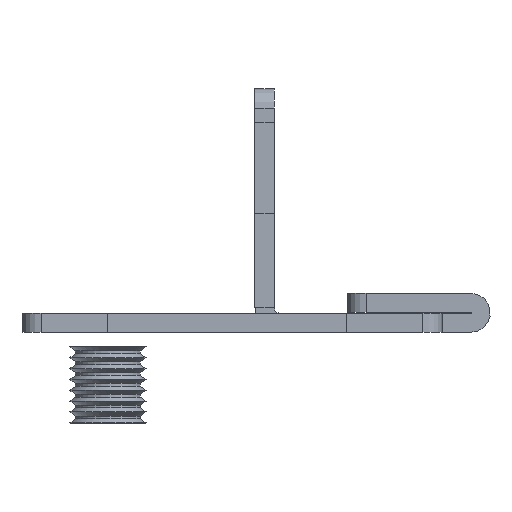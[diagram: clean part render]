
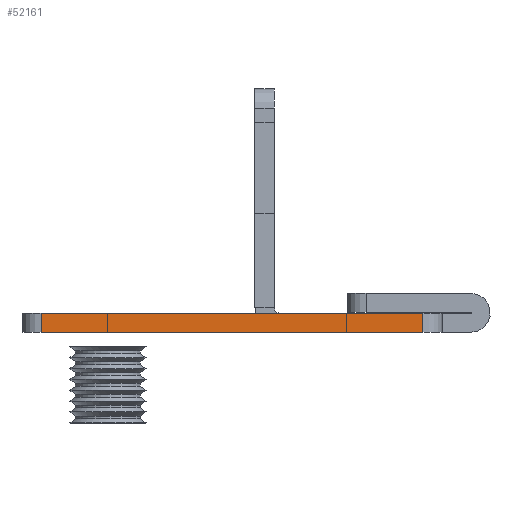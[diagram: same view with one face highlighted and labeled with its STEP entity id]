
A CAD part, left-side view. The second image highlights one B-rep face of the part: STEP entity #52161.
In plain terms, the highlighted planar face has unit normal (-1, 0, 0).
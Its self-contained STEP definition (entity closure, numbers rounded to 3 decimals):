
#50156=CARTESIAN_POINT(' ',(-972.5,35.,2.));
#50157=VERTEX_POINT(' ',#50156);
#50171=CARTESIAN_POINT(' ',(-972.5,35.,2.));
#50176=DIRECTION(' ',(0.,-1.,0.));
#50181=VECTOR(' ',#50176,1.);
#50186=LINE('',#50171,#50181);
#50191=CARTESIAN_POINT(' ',(-972.5,-5.,2.));
#50192=VERTEX_POINT(' ',#50191);
#50196=EDGE_CURVE(' ',#50157,#50192,#50186,.T.);
#51406=CARTESIAN_POINT(' ',(-972.5,-5.,0.));
#51407=VERTEX_POINT(' ',#51406);
#51421=CARTESIAN_POINT(' ',(-972.5,35.,0.));
#51426=DIRECTION(' ',(0.,-1.,0.));
#51431=VECTOR(' ',#51426,1.);
#51436=LINE('',#51421,#51431);
#51441=CARTESIAN_POINT(' ',(-972.5,35.,0.));
#51442=VERTEX_POINT(' ',#51441);
#51446=EDGE_CURVE(' ',#51442,#51407,#51436,.T.);
#52036=CARTESIAN_POINT(' ',(-972.5,35.,2.));
#52041=DIRECTION(' ',(0.,0.,-1.));
#52046=VECTOR(' ',#52041,1.);
#52051=LINE('',#52036,#52046);
#52056=EDGE_CURVE(' ',#50157,#51442,#52051,.T.);
#52081=DIRECTION(' ',(-1.,-0.,-0.));
#52086=CARTESIAN_POINT(' ',(-972.5,-5.,0.));
#52091=DIRECTION(' ',(0.,0.,1.));
#52096=AXIS2_PLACEMENT_3D(' ',#52086,#52081,#52091);
#52101=PLANE('NONE',#52096);
#52106=ORIENTED_EDGE(' ',*,*,#51446,.T.);
#52111=CARTESIAN_POINT(' ',(-972.5,-5.,0.));
#52116=DIRECTION(' ',(0.,0.,1.));
#52121=VECTOR(' ',#52116,1.);
#52126=LINE('',#52111,#52121);
#52131=EDGE_CURVE(' ',#51407,#50192,#52126,.T.);
#52136=ORIENTED_EDGE(' ',*,*,#52131,.T.);
#52141=ORIENTED_EDGE(' ',*,*,#50196,.F.);
#52146=ORIENTED_EDGE(' ',*,*,#52056,.T.);
#52151=EDGE_LOOP(' ',(#52106,#52136,#52141,#52146));
#52156=FACE_OUTER_BOUND(' ',#52151,.T.);
#52161=ADVANCED_FACE('NONE',(#52156),#52101,.T.);
